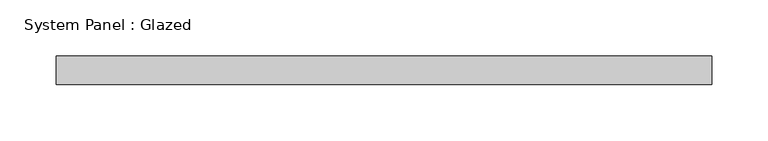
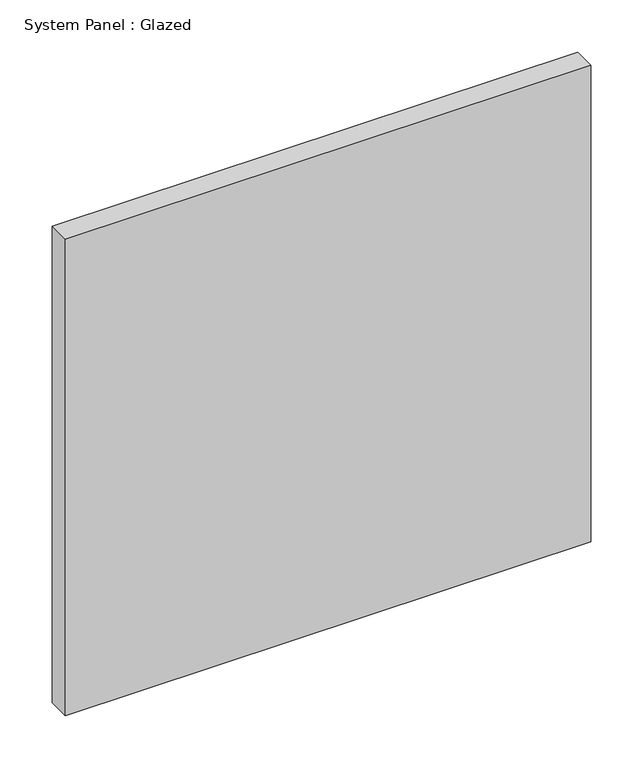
"""IFC4 building model written with IfcOpenShell, lengths in millimetres: plate geometry, System Panel : Glazed."""

from ifc_helpers import new_model, si_unit, origin, origin_with_axes, place, context, project, spatial, polyline, outline, extrude, source, transform, mapped, element, save


def system_panel_glazed_905fb7e1(model_context):
    return source(origin(), model_context, "Body", "SweptSolid", [
        extrude(outline(polyline([(291.3212769, -12.7), (-291.3212769, -12.7), (-291.3212769, 12.7), (291.3212769, 12.7), (291.3212769, -12.7)])), origin_with_axes(), (0.0, 0.0, 1.0), 558.8),
    ])


if __name__ == "__main__":
    model = new_model("IFC4")
    model_context = context("Model", 3, world=origin())
    ifc_project = project(units=[si_unit("LENGTHUNIT", "METRE", prefix="MILLI")], contexts=[model_context])
    site = spatial("IfcSite", under=ifc_project)
    building = spatial("IfcBuilding", under=site)
    placement = place(None, origin())
    system_panel_glazed_shape = system_panel_glazed_905fb7e1(model_context)
    element("IfcPlate", 1, ObjectType="System Panel : Glazed", at=placement, inside=building, context=model_context, shape_type="MappedRepresentation", body=[
        mapped(system_panel_glazed_shape, transform((0.0, 0.0, 0.0), x_axis=(1.0, 0.0, 0.0), y_axis=(0.0, 1.0, 0.0), z_axis=(0.0, 0.0, 1.0))),
    ])
    save(model, "model.ifc")
